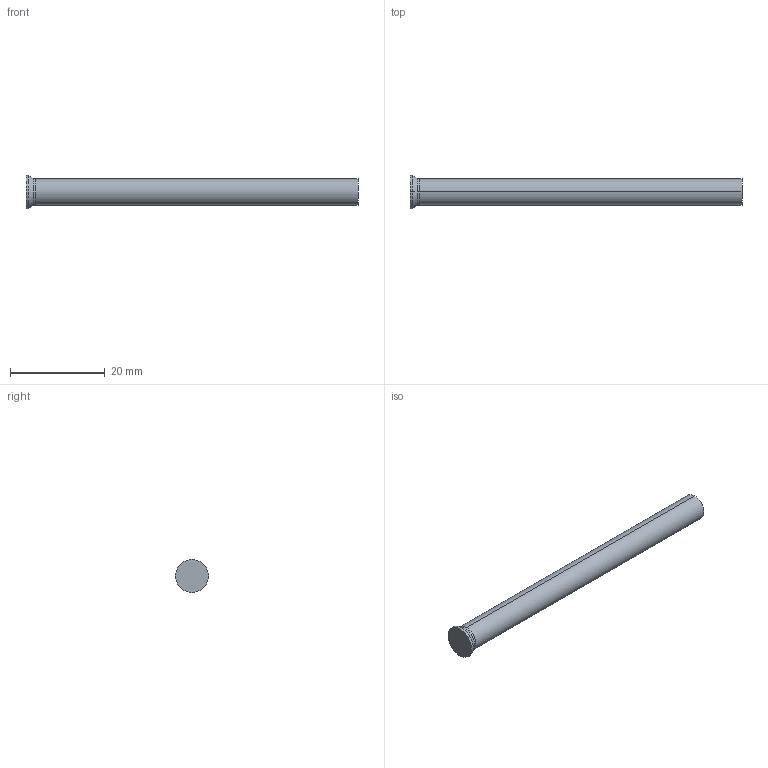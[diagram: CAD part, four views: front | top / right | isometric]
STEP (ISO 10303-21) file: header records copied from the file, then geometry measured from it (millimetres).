
FILE_DESCRIPTION (( 'STEP AP214' ), '1' );
FILE_NAME ('D-5,6x70.STEP', '2020-06-08T17:03:42', ( 'August' ), ( '' ), 'SwSTEP 2.0', 'SolidWorks 2018', '' );
FILE_SCHEMA (( 'AUTOMOTIVE_DESIGN' ));
Length unit declared in the file: millimetre
Products named in the file (1): D-5,6x70
Bounding box: 70 x 7 x 7 mm (x, y, z)
Volume: 1739.2 mm3; surface area: 1303 mm2
Topology: 1 solids, 1 shells, 10 faces, 18 edges, 10 vertices
Faces by surface type: cylinder 4, torus 2, cone 2, plane 2
Entity records: 280 total; most frequent: DIRECTION 52, CARTESIAN_POINT 39, ORIENTED_EDGE 36, AXIS2_PLACEMENT_3D 23, EDGE_CURVE 18, CIRCLE 12, VERTEX_POINT 10, ADVANCED_FACE 10
